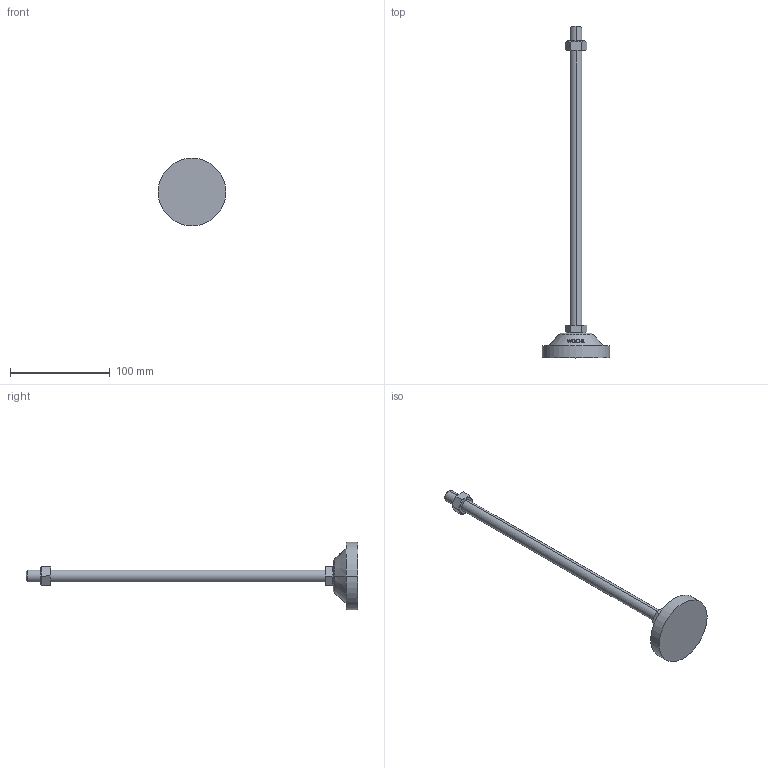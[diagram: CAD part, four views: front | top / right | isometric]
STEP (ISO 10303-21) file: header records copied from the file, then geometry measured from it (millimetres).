
FILE_DESCRIPTION (( 'STEP AP214' ), '1' );
FILE_NAME ('RL68-M12-300.step', '2021-01-06T08:17:15', ( '' ), ( '' ), 'SwSTEP 2.0', 'SolidWorks 2019', '' );
FILE_SCHEMA (( 'AUTOMOTIVE_DESIGN' ));
Length unit declared in the file: millimetre
Products named in the file (1): RL68-M12-300
Bounding box: 68 x 333 x 68 mm (x, y, z)
Volume: 101611.9 mm3; surface area: 24358 mm2
Topology: 3 solids, 3 shells, 93 faces, 217 edges, 140 vertices
Faces by surface type: plane 47, cone 22, bspline 16, cylinder 6, torus 2
Entity records: 4047 total; most frequent: CARTESIAN_POINT 2015, ORIENTED_EDGE 434, DIRECTION 349, EDGE_CURVE 217, VERTEX_POINT 140, AXIS2_PLACEMENT_3D 134, EDGE_LOOP 105, FACE_OUTER_BOUND 93
